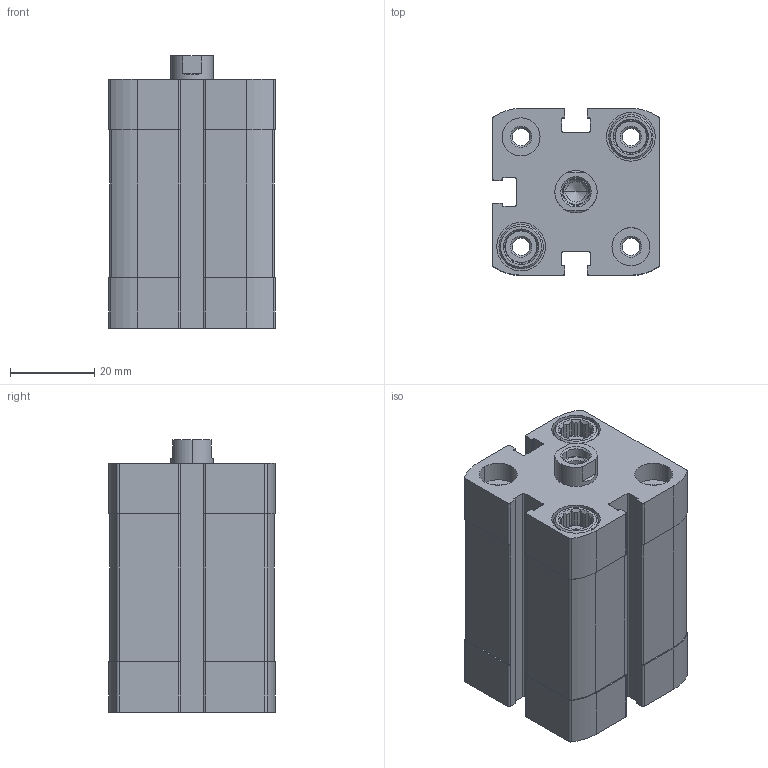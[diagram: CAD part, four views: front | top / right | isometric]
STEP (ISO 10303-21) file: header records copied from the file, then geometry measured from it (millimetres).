
FILE_DESCRIPTION (( 'STEP AP203' ), '1' );
FILE_NAME ('CCN25-20F.STEP', '2017-03-28T17:20:43', ( '' ), ( '' ), 'SwSTEP 2.0', 'SolidWorks 2016', '' );
FILE_SCHEMA (( 'CONFIG_CONTROL_DESIGN' ));
Length unit declared in the file: millimetre
Products named in the file (3): CCN-20---(Z); CCN-20-_(KS); CCN25-20F
Assembly tree (2 placements, depth 2):
  CCN25-20F
    CCN-20---(Z)
    CCN-20-_(KS)
Bounding box: 39.5 x 39.5 x 64.5 mm (x, y, z)
Volume: 69006.9 mm3; surface area: 26679.3 mm2
Topology: 2 solids, 2 shells, 407 faces, 1084 edges, 711 vertices
Faces by surface type: plane 231, cylinder 134, cone 42
Entity records: 13161 total; most frequent: CARTESIAN_POINT 2499, DIRECTION 2224, ORIENTED_EDGE 2164, EDGE_CURVE 1082, AXIS2_PLACEMENT_3D 828, VERTEX_POINT 711, VECTOR 568, LINE 568
